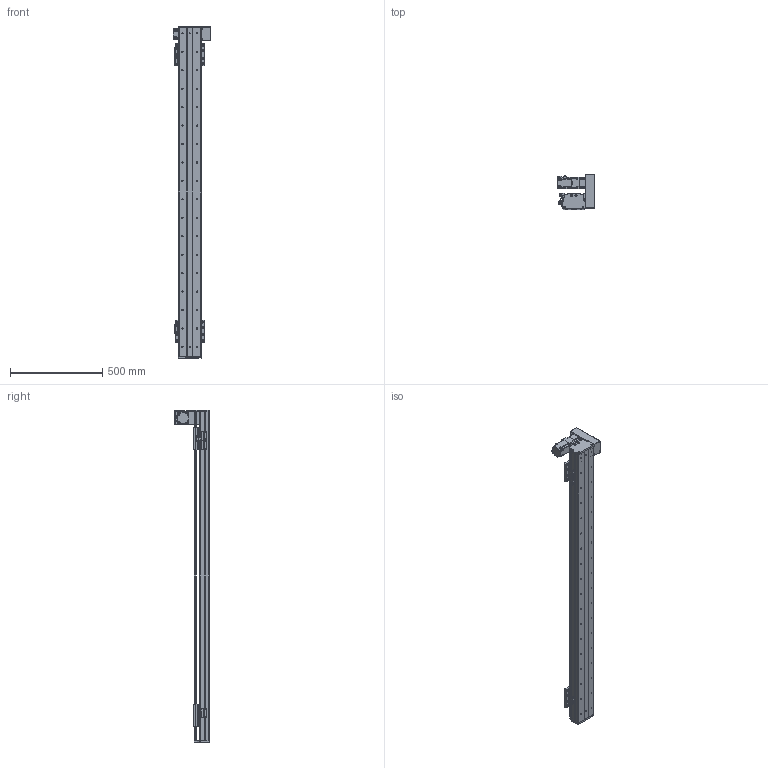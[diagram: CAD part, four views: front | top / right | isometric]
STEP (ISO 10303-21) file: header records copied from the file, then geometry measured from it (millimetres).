
FILE_DESCRIPTION(/* description */ (''),/* implementation_level */ '2;1');
FILE_NAME(/* name */ 'C:\Users\PC\Desktop\3D도면\STEP\DSB125-UR2G-W1500-L.stp',/* time_stamp */ '2018-06-19T16:58:08+09:00',/* author */ ('PC'),/* organization */ (''),/* preprocessor_version */ 'ST-DEVELOPER v16.5',/* originating_system */ 'Autodesk Inventor 2017',/* authorisation */ '');
FILE_SCHEMA (('AUTOMOTIVE_DESIGN { 1 0 10303 214 3 1 1 }'));
Length unit declared in the file: millimetre
Products named in the file (12): DSB125-UL2G-W1500-R_MIR; DSB125-BASE_MIR; DSB125-UP COVER_MIR; DSB125-FRONT COVER_MIR; DSB125-REAR COVER_MIR; hg-kr23__MIR; ab0601-p0401200402_MIR; 13-BELT COVER_MIR; DSR125-SENSOR DOG_MIR; SENSOR BRACKET(EE-SX674A)_MIR; pm-y65_step_MIR; DSB125-TABLE(MSB15S)_MIR
Assembly tree (16 placements, depth 2):
  DSB125-UL2G-W1500-R_MIR
    DSB125-BASE_MIR
    DSB125-UP COVER_MIR
    DSB125-FRONT COVER_MIR
    DSB125-REAR COVER_MIR
    hg-kr23__MIR
    ab0601-p0401200402_MIR
    13-BELT COVER_MIR
    DSR125-SENSOR DOG_MIR
    SENSOR BRACKET(EE-SX674A)_MIR  x3
    pm-y65_step_MIR  x3
    DSB125-TABLE(MSB15S)_MIR  x2
Bounding box: 202.1 x 187 x 1800 mm (x, y, z)
Volume: 6222243.4 mm3; surface area: 1789510.2 mm2
Topology: 17 solids, 17 shells, 1683 faces, 4560 edges, 3002 vertices
Faces by surface type: plane 903, cylinder 642, cone 126, sphere 8, torus 4
Full cylindrical faces by diameter (mm): 2.459 x20, 3.242 x16, 3.5 x6, 4 x1, 4.134 x16, 4.2 x4, 4.3 x1, 4.5 x50, 4.917 x20, 5 x22, 5.3 x1, 5.5 x4, 5.6 x8, 5.8 x4, 5.9 x8, 6 x4, 6.6 x22, 6.647 x36, 7.5 x32, 8.5 x8, 8.7 x1, 11 x22, 14 x1, 16 x2, 17 x1, 20 x1, 47 x1, 50 x3
Entity records: 36473 total; most frequent: CARTESIAN_POINT 6555, DIRECTION 6202, ORIENTED_EDGE 5522, EDGE_CURVE 2761, AXIS2_PLACEMENT_3D 2289, VERTEX_POINT 1970, EDGE_LOOP 1717, LINE 1624
